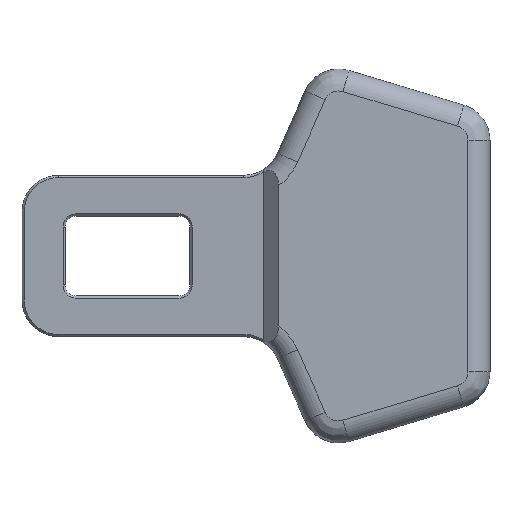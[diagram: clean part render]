
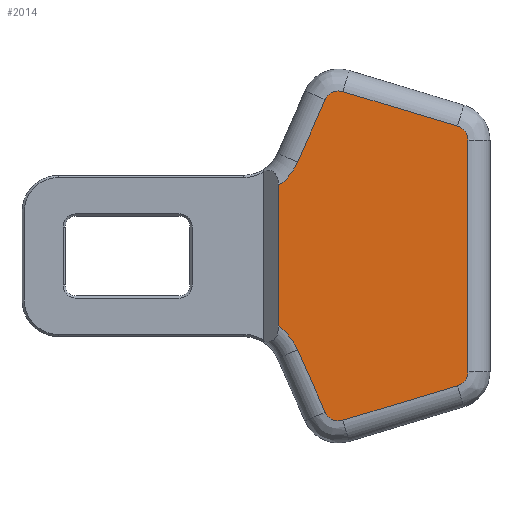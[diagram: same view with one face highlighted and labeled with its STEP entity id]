
A CAD part, top view. The second image highlights one B-rep face of the part: STEP entity #2014.
In plain terms, the highlighted planar face has unit normal (0, 0, 1).
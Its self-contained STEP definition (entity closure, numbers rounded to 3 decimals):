
#128=CIRCLE('',#2206,8.);
#131=CIRCLE('',#2210,2.);
#134=CIRCLE('',#2214,2.);
#137=CIRCLE('',#2218,2.);
#140=CIRCLE('',#2222,2.);
#142=CIRCLE('',#2227,8.);
#304=FACE_OUTER_BOUND('',#432,.T.);
#432=EDGE_LOOP('',(#1709,#1710,#1711,#1712,#1713,#1714,#1715,#1716,#1717,
#1718,#1719,#1720));
#601=LINE('',#3340,#777);
#602=LINE('',#3356,#778);
#603=LINE('',#3372,#779);
#604=LINE('',#3388,#780);
#605=LINE('',#3404,#781);
#608=LINE('',#3429,#784);
#777=VECTOR('',#2723,10.);
#778=VECTOR('',#2732,10.);
#779=VECTOR('',#2741,10.);
#780=VECTOR('',#2750,10.);
#781=VECTOR('',#2759,10.);
#784=VECTOR('',#2770,10.);
#933=VERTEX_POINT('',#3316);
#934=VERTEX_POINT('',#3318);
#936=VERTEX_POINT('',#3338);
#937=VERTEX_POINT('',#3350);
#938=VERTEX_POINT('',#3354);
#939=VERTEX_POINT('',#3366);
#940=VERTEX_POINT('',#3370);
#941=VERTEX_POINT('',#3382);
#942=VERTEX_POINT('',#3386);
#943=VERTEX_POINT('',#3398);
#944=VERTEX_POINT('',#3402);
#946=VERTEX_POINT('',#3414);
#1188=EDGE_CURVE('',#933,#934,#128,.T.);
#1192=EDGE_CURVE('',#936,#933,#601,.T.);
#1194=EDGE_CURVE('',#937,#936,#131,.T.);
#1196=EDGE_CURVE('',#938,#937,#602,.T.);
#1198=EDGE_CURVE('',#939,#938,#134,.T.);
#1200=EDGE_CURVE('',#940,#939,#603,.T.);
#1202=EDGE_CURVE('',#941,#940,#137,.T.);
#1204=EDGE_CURVE('',#942,#941,#604,.T.);
#1206=EDGE_CURVE('',#943,#942,#140,.T.);
#1208=EDGE_CURVE('',#944,#943,#605,.T.);
#1213=EDGE_CURVE('',#946,#944,#142,.T.);
#1214=EDGE_CURVE('',#934,#946,#608,.T.);
#1709=ORIENTED_EDGE('',*,*,#1188,.F.);
#1710=ORIENTED_EDGE('',*,*,#1192,.F.);
#1711=ORIENTED_EDGE('',*,*,#1194,.F.);
#1712=ORIENTED_EDGE('',*,*,#1196,.F.);
#1713=ORIENTED_EDGE('',*,*,#1198,.F.);
#1714=ORIENTED_EDGE('',*,*,#1200,.F.);
#1715=ORIENTED_EDGE('',*,*,#1202,.F.);
#1716=ORIENTED_EDGE('',*,*,#1204,.F.);
#1717=ORIENTED_EDGE('',*,*,#1206,.F.);
#1718=ORIENTED_EDGE('',*,*,#1208,.F.);
#1719=ORIENTED_EDGE('',*,*,#1213,.F.);
#1720=ORIENTED_EDGE('',*,*,#1214,.F.);
#1905=PLANE('',#2228);
#2014=ADVANCED_FACE('',(#304),#1905,.T.);
#2206=AXIS2_PLACEMENT_3D('',#3319,#2717,#2718);
#2210=AXIS2_PLACEMENT_3D('',#3352,#2726,#2727);
#2214=AXIS2_PLACEMENT_3D('',#3368,#2735,#2736);
#2218=AXIS2_PLACEMENT_3D('',#3384,#2744,#2745);
#2222=AXIS2_PLACEMENT_3D('',#3400,#2753,#2754);
#2227=AXIS2_PLACEMENT_3D('',#3427,#2766,#2767);
#2228=AXIS2_PLACEMENT_3D('',#3428,#2768,#2769);
#2717=DIRECTION('center_axis',(0.,0.,1.));
#2718=DIRECTION('ref_axis',(-0.915,-0.404,0.));
#2723=DIRECTION('',(-0.404,0.915,0.));
#2726=DIRECTION('center_axis',(0.,0.,-1.));
#2727=DIRECTION('ref_axis',(-0.418,-0.908,0.));
#2732=DIRECTION('',(-0.958,-0.288,0.));
#2735=DIRECTION('center_axis',(0.,0.,-1.));
#2736=DIRECTION('ref_axis',(0.803,-0.597,0.));
#2741=DIRECTION('',(0.,-1.,0.));
#2744=DIRECTION('center_axis',(0.,0.,-1.));
#2745=DIRECTION('ref_axis',(0.803,0.597,0.));
#2750=DIRECTION('',(0.958,-0.288,0.));
#2753=DIRECTION('center_axis',(0.,0.,-1.));
#2754=DIRECTION('ref_axis',(-0.418,0.908,0.));
#2759=DIRECTION('',(0.404,0.915,0.));
#2766=DIRECTION('center_axis',(0.,0.,1.));
#2767=DIRECTION('ref_axis',(-0.915,0.404,0.));
#2768=DIRECTION('center_axis',(0.,0.,1.));
#2769=DIRECTION('ref_axis',(-1.,0.,0.));
#2770=DIRECTION('',(0.,1.,0.));
#3316=CARTESIAN_POINT('',(-3.884,-10.945,11.));
#3318=CARTESIAN_POINT('',(-6.473,-7.724,11.));
#3319=CARTESIAN_POINT('Origin',(-11.202,-14.176,11.));
#3338=CARTESIAN_POINT('',(-0.117,-19.475,11.));
#3340=CARTESIAN_POINT('',(-5.36,-7.603,11.));
#3350=CARTESIAN_POINT('',(2.289,-20.582,11.));
#3352=CARTESIAN_POINT('Origin',(1.712,-18.667,11.));
#3354=CARTESIAN_POINT('',(17.932,-15.875,11.));
#3356=CARTESIAN_POINT('',(7.513,-19.01,11.));
#3366=CARTESIAN_POINT('',(19.356,-13.959,11.));
#3368=CARTESIAN_POINT('Origin',(17.356,-13.959,11.));
#3370=CARTESIAN_POINT('',(19.356,17.607,11.));
#3372=CARTESIAN_POINT('',(19.356,-6.068,11.));
#3382=CARTESIAN_POINT('',(17.932,19.522,11.));
#3384=CARTESIAN_POINT('Origin',(17.356,17.607,11.));
#3386=CARTESIAN_POINT('',(2.289,24.229,11.));
#3388=CARTESIAN_POINT('',(15.335,20.303,11.));
#3398=CARTESIAN_POINT('',(-0.117,23.122,11.));
#3400=CARTESIAN_POINT('Origin',(1.712,22.314,11.));
#3402=CARTESIAN_POINT('',(-3.884,14.592,11.));
#3404=CARTESIAN_POINT('',(-3.476,15.515,11.));
#3414=CARTESIAN_POINT('',(-6.473,11.371,11.));
#3427=CARTESIAN_POINT('Origin',(-11.202,17.824,11.));
#3428=CARTESIAN_POINT('Origin',(6.942,1.824,11.));
#3429=CARTESIAN_POINT('',(-6.473,7.729,11.));
